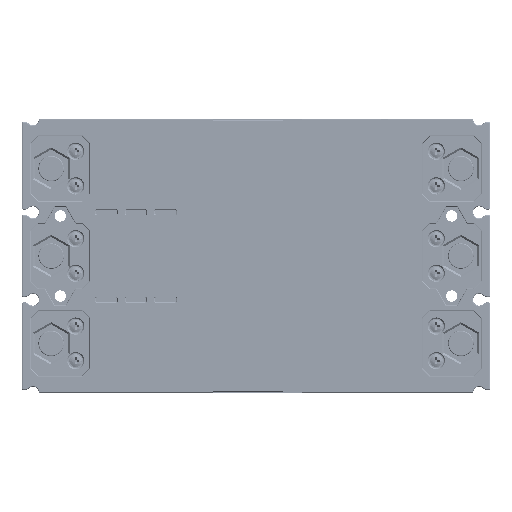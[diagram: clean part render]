
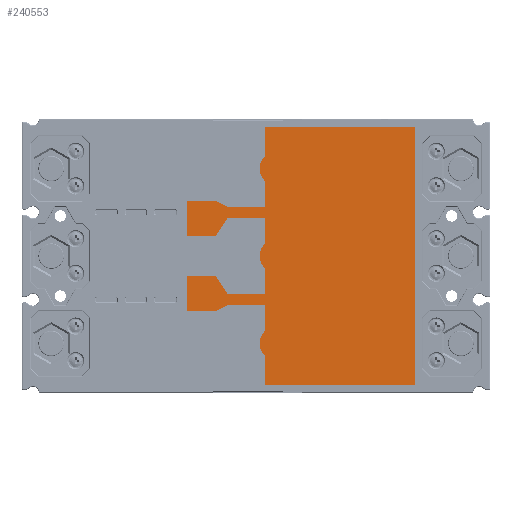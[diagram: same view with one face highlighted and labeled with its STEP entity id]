
A CAD part, front view. The second image highlights one B-rep face of the part: STEP entity #240553.
In plain terms, the highlighted planar face has unit normal (0, -1, 0) as drawn and (0, 0, 1) by its records, which use the part's own axes.
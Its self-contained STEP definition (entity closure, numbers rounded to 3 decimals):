
#239789=DIRECTION('',(0.,-1.,0.));
#239790=VECTOR('',#239789,82.5);
#239791=CARTESIAN_POINT('',(-71.,82.5,0.8));
#239792=LINE('',#239791,#239790);
#239793=DIRECTION('',(-1.,0.,0.));
#239794=VECTOR('',#239793,16.072);
#239795=CARTESIAN_POINT('',(-54.928,82.5,0.8));
#239796=LINE('',#239795,#239794);
#239805=DIRECTION('',(-1.,0.,0.));
#239806=VECTOR('',#239805,13.972);
#239807=CARTESIAN_POINT('',(-27.1,82.5,0.8));
#239808=LINE('',#239807,#239806);
#239817=DIRECTION('',(0.,-1.,0.));
#239818=VECTOR('',#239817,20.5);
#239819=CARTESIAN_POINT('',(-27.1,103.,0.8));
#239820=LINE('',#239819,#239818);
#239829=DIRECTION('',(0.,-1.,0.));
#239830=VECTOR('',#239829,16.);
#239831=CARTESIAN_POINT('',(-30.25,125.5,0.8));
#239832=LINE('',#239831,#239830);
#239837=DIRECTION('',(-1.,0.,0.));
#239838=VECTOR('',#239837,19.);
#239839=CARTESIAN_POINT('',(-11.25,125.5,0.8));
#239840=LINE('',#239839,#239838);
#239845=DIRECTION('',(0.,1.,0.));
#239846=VECTOR('',#239845,16.);
#239847=CARTESIAN_POINT('',(-11.25,109.5,0.8));
#239848=LINE('',#239847,#239846);
#239853=DIRECTION('',(0.,1.,0.));
#239854=VECTOR('',#239853,20.5);
#239855=CARTESIAN_POINT('',(-20.9,82.5,0.8));
#239856=LINE('',#239855,#239854);
#239861=DIRECTION('',(-1.,0.,0.));
#239862=VECTOR('',#239861,13.972);
#239863=CARTESIAN_POINT('',(-6.928,82.5,0.8));
#239864=LINE('',#239863,#239862);
#239873=DIRECTION('',(-1.,0.,0.));
#239874=VECTOR('',#239873,13.972);
#239875=CARTESIAN_POINT('',(20.9,82.5,0.8));
#239876=LINE('',#239875,#239874);
#239885=DIRECTION('',(0.,-1.,0.));
#239886=VECTOR('',#239885,20.5);
#239887=CARTESIAN_POINT('',(20.9,103.,0.8));
#239888=LINE('',#239887,#239886);
#239897=DIRECTION('',(0.,-1.,0.));
#239898=VECTOR('',#239897,16.);
#239899=CARTESIAN_POINT('',(11.25,125.5,0.8));
#239900=LINE('',#239899,#239898);
#239905=DIRECTION('',(-1.,0.,0.));
#239906=VECTOR('',#239905,19.);
#239907=CARTESIAN_POINT('',(30.25,125.5,0.8));
#239908=LINE('',#239907,#239906);
#239913=DIRECTION('',(0.,1.,0.));
#239914=VECTOR('',#239913,16.);
#239915=CARTESIAN_POINT('',(30.25,109.5,0.8));
#239916=LINE('',#239915,#239914);
#239921=DIRECTION('',(0.,1.,0.));
#239922=VECTOR('',#239921,20.5);
#239923=CARTESIAN_POINT('',(27.1,82.5,0.8));
#239924=LINE('',#239923,#239922);
#239929=DIRECTION('',(-1.,0.,0.));
#239930=VECTOR('',#239929,13.972);
#239931=CARTESIAN_POINT('',(41.072,82.5,0.8));
#239932=LINE('',#239931,#239930);
#239945=DIRECTION('',(-1.,0.,0.));
#239946=VECTOR('',#239945,16.072);
#239947=CARTESIAN_POINT('',(71.,82.5,0.8));
#239948=LINE('',#239947,#239946);
#239953=DIRECTION('',(0.,1.,0.));
#239954=VECTOR('',#239953,82.5);
#239955=CARTESIAN_POINT('',(71.,0.,0.8));
#239956=LINE('',#239955,#239954);
#239957=CARTESIAN_POINT('',(48.,76.,0.8));
#239958=DIRECTION('',(0.,0.,-1.));
#239959=DIRECTION('',(-0.729,0.684,0.));
#239960=AXIS2_PLACEMENT_3D('',#239957,#239958,#239959);
#239962=DIRECTION('',(-1.,0.,0.));
#239963=VECTOR('',#239962,142.);
#239964=CARTESIAN_POINT('',(71.,0.,0.8));
#239965=LINE('',#239964,#239963);
#239966=CARTESIAN_POINT('',(-48.,76.,0.8));
#239967=DIRECTION('',(0.,0.,-1.));
#239968=DIRECTION('',(-0.729,0.684,0.));
#239969=AXIS2_PLACEMENT_3D('',#239966,#239967,#239968);
#239971=DIRECTION('',(-0.436,0.9,0.));
#239972=VECTOR('',#239971,7.223);
#239973=CARTESIAN_POINT('',(-27.1,103.,0.8));
#239974=LINE('',#239973,#239972);
#239975=DIRECTION('',(-0.829,-0.559,0.));
#239976=VECTOR('',#239975,11.635);
#239977=CARTESIAN_POINT('',(-11.25,109.5,0.8));
#239978=LINE('',#239977,#239976);
#239979=CARTESIAN_POINT('',(0.,76.,0.8));
#239980=DIRECTION('',(0.,0.,-1.));
#239981=DIRECTION('',(-0.729,0.684,0.));
#239982=AXIS2_PLACEMENT_3D('',#239979,#239980,#239981);
#239984=DIRECTION('',(-0.829,0.559,0.));
#239985=VECTOR('',#239984,11.635);
#239986=CARTESIAN_POINT('',(20.9,103.,0.8));
#239987=LINE('',#239986,#239985);
#239988=DIRECTION('',(-0.436,-0.9,0.));
#239989=VECTOR('',#239988,7.223);
#239990=CARTESIAN_POINT('',(30.25,109.5,0.8));
#239991=LINE('',#239990,#239989);
#240044=CARTESIAN_POINT('',(-71.,0.,0.8));
#240045=VERTEX_POINT('',#240044);
#240046=CARTESIAN_POINT('',(71.,0.,0.8));
#240047=VERTEX_POINT('',#240046);
#240048=CARTESIAN_POINT('',(-71.,82.5,0.8));
#240049=VERTEX_POINT('',#240048);
#240050=CARTESIAN_POINT('',(-54.928,82.5,0.8));
#240051=VERTEX_POINT('',#240050);
#240052=CARTESIAN_POINT('',(-41.072,82.5,0.8));
#240053=VERTEX_POINT('',#240052);
#240054=CARTESIAN_POINT('',(-27.1,82.5,0.8));
#240055=VERTEX_POINT('',#240054);
#240056=CARTESIAN_POINT('',(-27.1,103.,0.8));
#240057=VERTEX_POINT('',#240056);
#240058=CARTESIAN_POINT('',(-30.25,109.5,0.8));
#240059=VERTEX_POINT('',#240058);
#240060=CARTESIAN_POINT('',(-30.25,125.5,0.8));
#240061=VERTEX_POINT('',#240060);
#240062=CARTESIAN_POINT('',(-11.25,125.5,0.8));
#240063=VERTEX_POINT('',#240062);
#240064=CARTESIAN_POINT('',(-11.25,109.5,0.8));
#240065=VERTEX_POINT('',#240064);
#240066=CARTESIAN_POINT('',(-20.9,103.,0.8));
#240067=VERTEX_POINT('',#240066);
#240068=CARTESIAN_POINT('',(-20.9,82.5,0.8));
#240069=VERTEX_POINT('',#240068);
#240070=CARTESIAN_POINT('',(-6.928,82.5,0.8));
#240071=VERTEX_POINT('',#240070);
#240072=CARTESIAN_POINT('',(6.928,82.5,0.8));
#240073=VERTEX_POINT('',#240072);
#240074=CARTESIAN_POINT('',(20.9,82.5,0.8));
#240075=VERTEX_POINT('',#240074);
#240076=CARTESIAN_POINT('',(20.9,103.,0.8));
#240077=VERTEX_POINT('',#240076);
#240078=CARTESIAN_POINT('',(11.25,109.5,0.8));
#240079=VERTEX_POINT('',#240078);
#240080=CARTESIAN_POINT('',(11.25,125.5,0.8));
#240081=VERTEX_POINT('',#240080);
#240082=CARTESIAN_POINT('',(30.25,125.5,0.8));
#240083=VERTEX_POINT('',#240082);
#240084=CARTESIAN_POINT('',(30.25,109.5,0.8));
#240085=VERTEX_POINT('',#240084);
#240086=CARTESIAN_POINT('',(27.1,103.,0.8));
#240087=VERTEX_POINT('',#240086);
#240088=CARTESIAN_POINT('',(27.1,82.5,0.8));
#240089=VERTEX_POINT('',#240088);
#240090=CARTESIAN_POINT('',(41.072,82.5,0.8));
#240091=VERTEX_POINT('',#240090);
#240092=CARTESIAN_POINT('',(54.928,82.5,0.8));
#240093=VERTEX_POINT('',#240092);
#240094=CARTESIAN_POINT('',(71.,82.5,0.8));
#240095=VERTEX_POINT('',#240094);
#240520=CARTESIAN_POINT('',(0.,0.,0.8));
#240521=DIRECTION('',(0.,0.,1.));
#240522=DIRECTION('',(1.,0.,0.));
#240523=AXIS2_PLACEMENT_3D('',#240520,#240521,#240522);
#240524=PLANE('',#240523);
#240525=ORIENTED_EDGE('',*,*,#240458,.F.);
#240526=ORIENTED_EDGE('',*,*,#240474,.F.);
#240527=ORIENTED_EDGE('',*,*,#240487,.T.);
#240528=ORIENTED_EDGE('',*,*,#240501,.F.);
#240529=ORIENTED_EDGE('',*,*,#240514,.F.);
#240530=ORIENTED_EDGE('',*,*,#240164,.T.);
#240531=ORIENTED_EDGE('',*,*,#240179,.F.);
#240532=ORIENTED_EDGE('',*,*,#240193,.F.);
#240533=ORIENTED_EDGE('',*,*,#240207,.T.);
#240534=ORIENTED_EDGE('',*,*,#240220,.F.);
#240535=ORIENTED_EDGE('',*,*,#240236,.F.);
#240536=ORIENTED_EDGE('',*,*,#240249,.T.);
#240537=ORIENTED_EDGE('',*,*,#240263,.F.);
#240538=ORIENTED_EDGE('',*,*,#240277,.F.);
#240539=ORIENTED_EDGE('',*,*,#240291,.F.);
#240540=ORIENTED_EDGE('',*,*,#240305,.T.);
#240541=ORIENTED_EDGE('',*,*,#240318,.F.);
#240542=ORIENTED_EDGE('',*,*,#240334,.F.);
#240543=ORIENTED_EDGE('',*,*,#240347,.T.);
#240544=ORIENTED_EDGE('',*,*,#240360,.F.);
#240545=ORIENTED_EDGE('',*,*,#240376,.F.);
#240546=ORIENTED_EDGE('',*,*,#240389,.T.);
#240547=ORIENTED_EDGE('',*,*,#240403,.F.);
#240548=ORIENTED_EDGE('',*,*,#240417,.F.);
#240549=ORIENTED_EDGE('',*,*,#240431,.F.);
#240550=ORIENTED_EDGE('',*,*,#240445,.T.);
#240551=EDGE_LOOP('',(#240525,#240526,#240527,#240528,#240529,#240530,#240531,
#240532,#240533,#240534,#240535,#240536,#240537,#240538,#240539,#240540,#240541,
#240542,#240543,#240544,#240545,#240546,#240547,#240548,#240549,#240550));
#240552=FACE_OUTER_BOUND('',#240551,.F.);
#240553=ADVANCED_FACE('',(#240552),#240524,.T.);
#239961=CIRCLE('',#239960,9.5);
#239970=CIRCLE('',#239969,9.5);
#239983=CIRCLE('',#239982,9.5);
#240164=EDGE_CURVE('',#240047,#240045,#239965,.T.);
#240179=EDGE_CURVE('',#240049,#240045,#239792,.T.);
#240193=EDGE_CURVE('',#240051,#240049,#239796,.T.);
#240207=EDGE_CURVE('',#240051,#240053,#239970,.T.);
#240220=EDGE_CURVE('',#240055,#240053,#239808,.T.);
#240236=EDGE_CURVE('',#240057,#240055,#239820,.T.);
#240249=EDGE_CURVE('',#240057,#240059,#239974,.T.);
#240263=EDGE_CURVE('',#240061,#240059,#239832,.T.);
#240277=EDGE_CURVE('',#240063,#240061,#239840,.T.);
#240291=EDGE_CURVE('',#240065,#240063,#239848,.T.);
#240305=EDGE_CURVE('',#240065,#240067,#239978,.T.);
#240318=EDGE_CURVE('',#240069,#240067,#239856,.T.);
#240334=EDGE_CURVE('',#240071,#240069,#239864,.T.);
#240347=EDGE_CURVE('',#240071,#240073,#239983,.T.);
#240360=EDGE_CURVE('',#240075,#240073,#239876,.T.);
#240376=EDGE_CURVE('',#240077,#240075,#239888,.T.);
#240389=EDGE_CURVE('',#240077,#240079,#239987,.T.);
#240403=EDGE_CURVE('',#240081,#240079,#239900,.T.);
#240417=EDGE_CURVE('',#240083,#240081,#239908,.T.);
#240431=EDGE_CURVE('',#240085,#240083,#239916,.T.);
#240445=EDGE_CURVE('',#240085,#240087,#239991,.T.);
#240458=EDGE_CURVE('',#240089,#240087,#239924,.T.);
#240474=EDGE_CURVE('',#240091,#240089,#239932,.T.);
#240487=EDGE_CURVE('',#240091,#240093,#239961,.T.);
#240501=EDGE_CURVE('',#240095,#240093,#239948,.T.);
#240514=EDGE_CURVE('',#240047,#240095,#239956,.T.);
